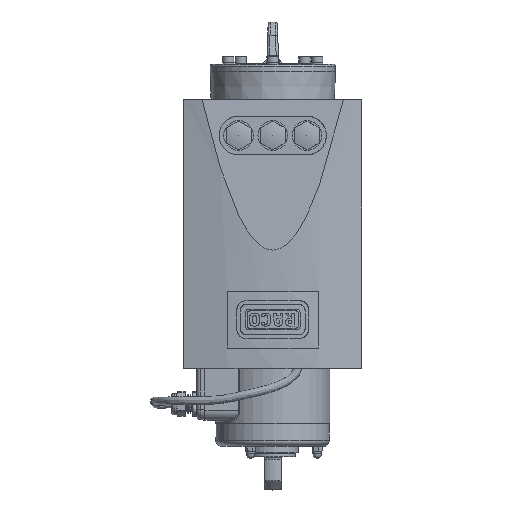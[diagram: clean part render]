
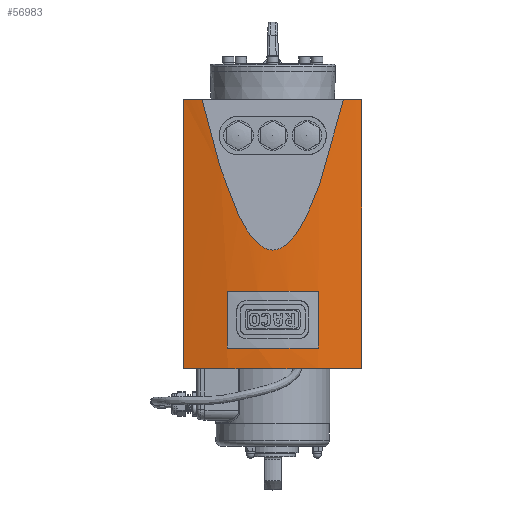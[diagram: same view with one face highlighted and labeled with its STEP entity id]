
A CAD part, top view. The second image highlights one B-rep face of the part: STEP entity #56983.
In plain terms, the highlighted cylindrical face has radius 282 mm (diameter 564 mm), a partial arc.
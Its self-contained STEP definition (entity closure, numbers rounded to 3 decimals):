
#839=CYLINDRICAL_SURFACE('',#61083,282.);
#2664=CIRCLE('',#61074,282.);
#2665=CIRCLE('',#61077,282.);
#2666=CIRCLE('',#61079,282.);
#2667=CIRCLE('',#61080,282.);
#2668=CIRCLE('',#61082,282.);
#3243=ELLIPSE('',#61066,5388.265,282.);
#13645=ORIENTED_EDGE('',*,*,#19749,.T.);
#13646=ORIENTED_EDGE('',*,*,#19751,.F.);
#13647=ORIENTED_EDGE('',*,*,#19744,.T.);
#13648=ORIENTED_EDGE('',*,*,#19729,.T.);
#13649=ORIENTED_EDGE('',*,*,#19747,.T.);
#13650=ORIENTED_EDGE('',*,*,#19752,.F.);
#13651=ORIENTED_EDGE('',*,*,#19741,.T.);
#13652=ORIENTED_EDGE('',*,*,#19743,.T.);
#13653=ORIENTED_EDGE('',*,*,#19736,.T.);
#13654=ORIENTED_EDGE('',*,*,#19739,.T.);
#19729=EDGE_CURVE('',#23615,#23616,#3243,.T.);
#19736=EDGE_CURVE('',#23619,#23620,#27084,.T.);
#19739=EDGE_CURVE('',#23620,#23621,#2664,.T.);
#19741=EDGE_CURVE('',#23621,#23622,#27088,.T.);
#19743=EDGE_CURVE('',#23622,#23619,#2665,.T.);
#19744=EDGE_CURVE('',#23623,#23615,#2666,.T.);
#19747=EDGE_CURVE('',#23616,#23624,#2667,.T.);
#19749=EDGE_CURVE('',#23626,#23625,#2668,.T.);
#19751=EDGE_CURVE('',#23623,#23625,#27094,.T.);
#19752=EDGE_CURVE('',#23626,#23624,#27095,.T.);
#23615=VERTEX_POINT('',#86037);
#23616=VERTEX_POINT('',#86038);
#23619=VERTEX_POINT('',#86052);
#23620=VERTEX_POINT('',#86053);
#23621=VERTEX_POINT('',#86058);
#23622=VERTEX_POINT('',#86062);
#23623=VERTEX_POINT('',#86068);
#23624=VERTEX_POINT('',#86071);
#23625=VERTEX_POINT('',#86075);
#23626=VERTEX_POINT('',#86077);
#27084=LINE('',#86051,#30481);
#27088=LINE('',#86061,#30485);
#27094=LINE('',#86080,#30491);
#27095=LINE('',#86081,#30492);
#30481=VECTOR('',#72233,1000.);
#30485=VECTOR('',#72243,1000.);
#30491=VECTOR('',#72265,1000.);
#30492=VECTOR('',#72266,1000.);
#33350=EDGE_LOOP('',(#13645,#13646,#13647,#13648,#13649,#13650));
#33351=EDGE_LOOP('',(#13651,#13652,#13653,#13654));
#36257=FACE_BOUND('',#33350,.T.);
#36258=FACE_BOUND('',#33351,.T.);
#56983=ADVANCED_FACE('',(#36257,#36258),#839,.T.);
#61066=AXIS2_PLACEMENT_3D('',#86036,#72215,#72216);
#61074=AXIS2_PLACEMENT_3D('',#86057,#72238,#72239);
#61077=AXIS2_PLACEMENT_3D('',#86065,#72247,#72248);
#61079=AXIS2_PLACEMENT_3D('',#86067,#72251,#72252);
#61080=AXIS2_PLACEMENT_3D('',#86072,#72255,#72256);
#61082=AXIS2_PLACEMENT_3D('',#86076,#72260,#72261);
#61083=AXIS2_PLACEMENT_3D('',#86079,#72263,#72264);
#72215=DIRECTION('',(0.,0.052,-0.999));
#72216=DIRECTION('',(0.,0.999,0.052));
#72233=DIRECTION('',(0.,1.,0.));
#72238=DIRECTION('',(0.,1.,0.));
#72239=DIRECTION('',(0.277,0.,0.961));
#72243=DIRECTION('',(0.,-1.,0.));
#72247=DIRECTION('',(0.,-1.,0.));
#72248=DIRECTION('',(0.277,0.,0.961));
#72251=DIRECTION('',(0.,1.,0.));
#72252=DIRECTION('',(0.277,0.,0.961));
#72255=DIRECTION('',(0.,1.,0.));
#72256=DIRECTION('',(0.277,0.,0.961));
#72260=DIRECTION('',(0.,-1.,0.));
#72261=DIRECTION('',(0.277,0.,0.961));
#72263=DIRECTION('',(0.,-1.,0.));
#72264=DIRECTION('',(0.277,0.,0.961));
#72265=DIRECTION('',(0.,1.,0.));
#72266=DIRECTION('',(0.,-1.,0.));
#86036=CARTESIAN_POINT('',(0.,-5277.481,-91.5));
#86037=CARTESIAN_POINT('',(-62.079,-28.6,183.582));
#86038=CARTESIAN_POINT('',(62.079,-28.6,183.582));
#86051=CARTESIAN_POINT('',(-40.,139.4,187.649));
#86052=CARTESIAN_POINT('',(-40.,139.4,187.649));
#86053=CARTESIAN_POINT('',(-40.,189.4,187.649));
#86057=CARTESIAN_POINT('',(0.,189.4,-91.5));
#86058=CARTESIAN_POINT('',(40.,189.4,187.649));
#86061=CARTESIAN_POINT('',(40.,189.4,187.649));
#86062=CARTESIAN_POINT('',(40.,139.4,187.649));
#86065=CARTESIAN_POINT('',(0.,139.4,-91.5));
#86067=CARTESIAN_POINT('',(0.,-28.6,-91.5));
#86068=CARTESIAN_POINT('',(-78.,-28.6,179.498));
#86071=CARTESIAN_POINT('',(78.,-28.6,179.498));
#86072=CARTESIAN_POINT('',(0.,-28.6,-91.5));
#86075=CARTESIAN_POINT('',(-78.,207.4,179.498));
#86076=CARTESIAN_POINT('',(0.,207.4,-91.5));
#86077=CARTESIAN_POINT('',(78.,207.4,179.498));
#86079=CARTESIAN_POINT('',(0.,89.4,-91.5));
#86080=CARTESIAN_POINT('',(-78.,-28.6,179.498));
#86081=CARTESIAN_POINT('',(78.,207.4,179.498));
